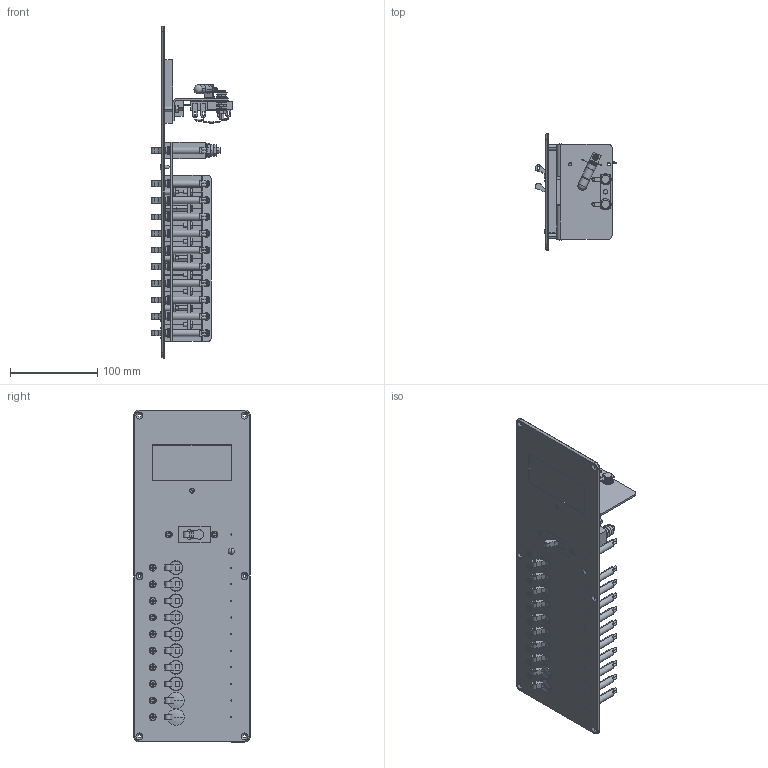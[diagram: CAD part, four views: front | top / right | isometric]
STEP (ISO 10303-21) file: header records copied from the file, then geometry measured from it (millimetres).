
FILE_DESCRIPTION((''),'2;1');
FILE_NAME('11061-0GX_3D.stp','2011-05-05T13:47:46',(''),(''),'Mechanical Desktop 2008','Mechanical Desktop 2008',', , ');
FILE_SCHEMA(('CONFIG_CONTROL_DESIGN'));
Length unit declared in the file: inch
Products named in the file (78): 11061-0GX_3D; 12350-0D1_3DA; 12350-0D1_3D; 576-0502-0_3DA; 576-0502-0_3D; 754-0605-1_3DA; 754-0605-1_3D; 11906-0D1_3D; 11906-0D1_3DA; 578-2800-0_3D; 578-2800-0_3DA; 999-0270-4_3D; 999-0270-4_3DA; 754-0604-5_3D; 754-0604-5_3DA; 12291-2B1_3D; 12291-2B1_3DA; 740-0601-2_3DA; 740-0601-2_3D; 754-0608-1_3DA; 754-0608-1_3D; 754-0608-2_3D; 754-0608-2_3DA; 12300-9N1_3D; 12300-9N1_3DA; 742-0601-2_3D; 742-0601-2_3DA; 718-0605-5_3D; 718-0605-5_3DA; 718-0805-2_3D; 718-0805-2_3DA; 999-0625-0_3DA; 999-0625-0_3D; 564-1101-2_3D; 564-1101-2_3DA; 568-0051-2_3D; 568-0051-2_3DA; 568-0101-2_3D; 568-0101-2_3DA; 568-0151-2_3D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
Assembly tree (174 placements, depth 3):
  11061-0GX_3D
    12350-0D1_3DA
      12350-0D1_3D
    576-0502-0_3DA
      576-0502-0_3D
    754-0605-1_3DA  x2
      754-0605-1_3D
    11906-0D1_3D
      11906-0D1_3DA
    578-2800-0_3D  x11
      578-2800-0_3DA
    999-0270-4_3D
      999-0270-4_3DA
    754-0604-5_3D  x3
      754-0604-5_3DA
    12291-2B1_3D
      12291-2B1_3DA
    740-0601-2_3DA  x3
      740-0601-2_3D
    754-0608-1_3DA  x3
      754-0608-1_3D
    754-0608-2_3D  x3
      754-0608-2_3DA
    12300-9N1_3D
      12300-9N1_3DA
    742-0601-2_3D  x11
      742-0601-2_3DA
    718-0605-5_3D  x3
      718-0605-5_3DA
    718-0805-2_3D  x6
      718-0805-2_3DA
    999-0625-0_3DA  x2
      999-0625-0_3D
    564-1101-2_3D
      564-1101-2_3DA
    568-0051-2_3D  x3
      568-0051-2_3DA
    568-0101-2_3D  x2
      568-0101-2_3DA
    568-0151-2_3D  x4
      568-0151-2_3DA
    568-0201-2_3D
      568-0201-2_3DA
    12151-0B1_3D
      12151-0B1_3DA
    718-0804-2_3D  x20
      718-0804-2_3DA
    735-0632-2_3DA  x8
      735-0632-2_3D
    970-3001-1_3D  x4
      970-3001-1_3DA
    740-1001-2_3DA  x6
      740-1001-2_3D
    742-1001-2_3D  x4
      742-1001-2_3DA
    735-1032-2_3D  x4
      735-1032-2_3DA
    573-0502-9_3D
      573-0502-9_3DA
    742-0401-2_3D  x2
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Bounding box: 93.34 x 133.35 x 381 mm (x, y, z)
Volume: 786890.6 mm3; surface area: 299789.6 mm2
Topology: 137 solids, 151 shells, 3574 faces, 8673 edges, 5557 vertices
Faces by surface type: plane 1532, cylinder 1329, cone 472, torus 118, sphere 112, bspline 11
Entity records: 46480 total; most frequent: CARTESIAN_POINT 8540, DIRECTION 8274, ORIENTED_EDGE 7196, EDGE_CURVE 3598, AXIS2_PLACEMENT_3D 3214, VERTEX_POINT 2304, VECTOR 1846, LINE 1846
